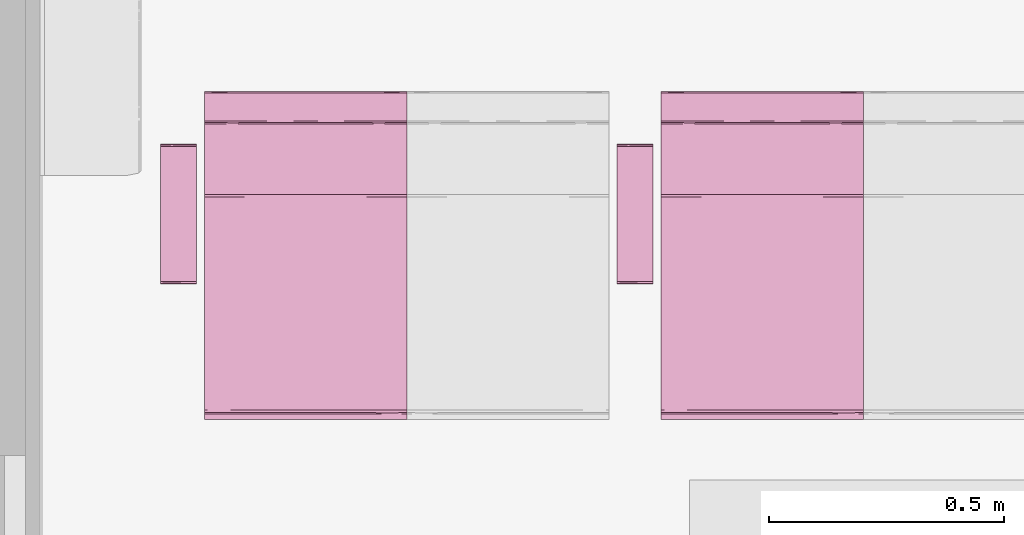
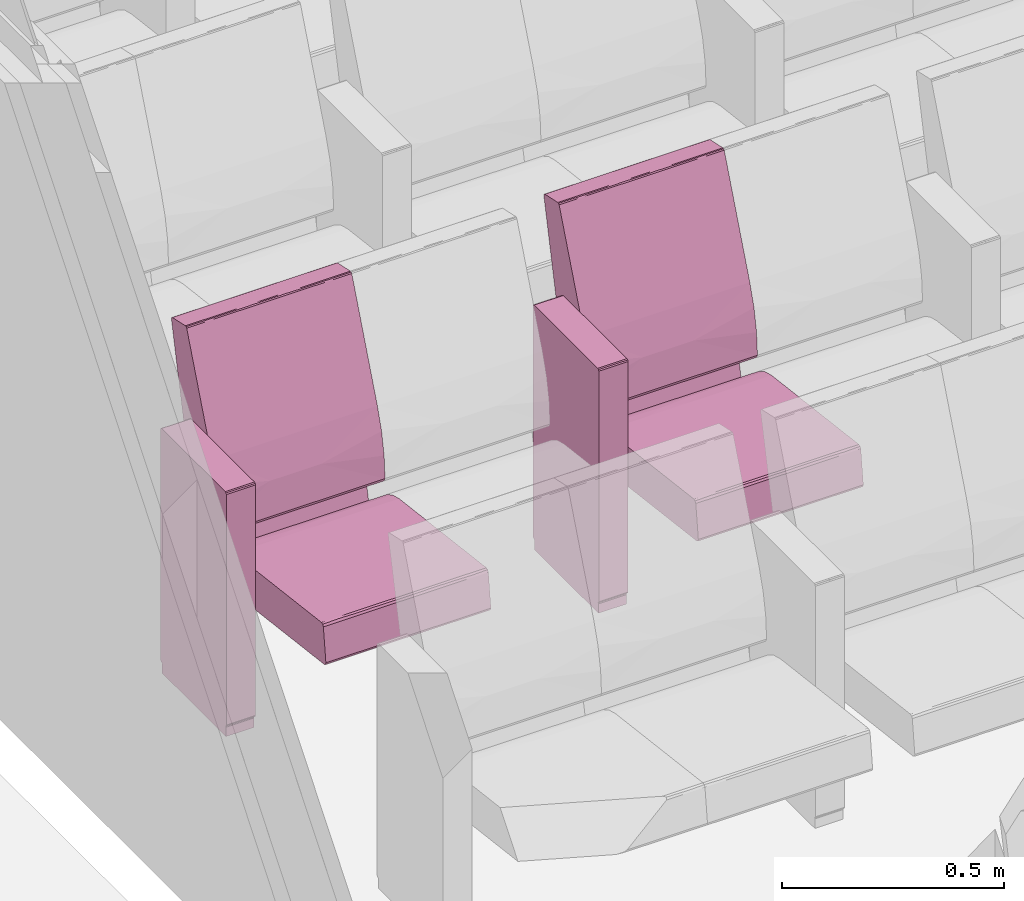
# One storey, part 99 of 155: 2 furnishings.
"""IFC2X3 building model written with IfcOpenShell, lengths in metres."""

import ifcopenshell
import ifcopenshell.guid

model = None  # the IFC model being written
_history = None  # IfcOwnerHistory: only IFC2X3 demands one
_inside = {}  # id of a spatial element -> (the spatial element, [elements in it])
_under = {}  # id of a project, library or spatial element -> (it, [spatial elements below it])
_declared = {}  # id of a project -> (the project, [libraries it declares])
_typed = {}  # id of a type object -> (the type object, [elements of that type])
_made_of = {}  # id of a material, layer set ... -> (it, [elements and type objects made of it])


def new_model(schema):
    """Start an empty IFC model of exactly this schema.

    Asked for "IFC4X3", IfcOpenShell would pick the latest addendum, in which some entities
    have other attributes; the version numbers below select the first issue.
    IFC2X3 requires an IfcOwnerHistory on every rooted entity: one is made here for all.
    """
    global model, _history
    if schema == "IFC4X3":
        model = ifcopenshell.file(schema_version=(4, 3, 0, 0))
    else:
        model = ifcopenshell.file(schema=schema)
    _inside.clear()
    _under.clear()
    _declared.clear()
    _typed.clear()
    _made_of.clear()
    _history = None
    if model.schema == "IFC2X3":
        org = make("IfcOrganization", Name="unknown")
        user = make(
            "IfcPersonAndOrganization",
            ThePerson=make("IfcPerson", FamilyName="unknown"),
            TheOrganization=org,
        )
        app = make(
            "IfcApplication",
            ApplicationDeveloper=org,
            Version="unknown",
            ApplicationFullName="unknown",
            ApplicationIdentifier="unknown",
        )
        _history = make(
            "IfcOwnerHistory",
            OwningUser=user,
            OwningApplication=app,
            ChangeAction="ADDED",
            CreationDate=0,
        )
    return model


def make(cls, **values):
    """One entity of the class cls with the attributes given. An attribute that is None is left unset."""
    return model.create_entity(
        cls, **{name: value for name, value in values.items() if value is not None}
    )


def entity(cls, *values):
    """Any entity or typed value of the class cls, its attributes in the order of the schema. None: left unset."""
    e = model.create_entity(cls)
    for i, value in enumerate(values):
        if value is not None:
            e[i] = value
    return e


def rooted(cls, **values):
    """An entity with a GlobalId (a new one), such as an element, a storey or a relation."""
    return make(cls, GlobalId=ifcopenshell.guid.new(), OwnerHistory=_history, **values)


def si_unit(unit_type, name, prefix=None):
    """IfcSIUnit, for example si_unit("LENGTHUNIT", "METRE", prefix="MILLI")."""
    return make("IfcSIUnit", UnitType=unit_type, Prefix=prefix, Name=name)


def converted_unit(unit_type, name, factor, base, dimensions=None, offset=None):
    """IfcConversionBasedUnit, such as the inch: factor (a typed value) times the base unit."""
    return make(
        "IfcConversionBasedUnit"
        if offset is None
        else "IfcConversionBasedUnitWithOffset",
        ConversionOffset=offset,
        Dimensions=None
        if dimensions is None
        else entity("IfcDimensionalExponents", *dimensions),
        UnitType=unit_type,
        Name=name,
        ConversionFactor=make(
            "IfcMeasureWithUnit", ValueComponent=factor, UnitComponent=base
        ),
    )


def derived_unit(unit_type, elements):
    """IfcDerivedUnit: a product of units, each with its exponent."""
    return make(
        "IfcDerivedUnit",
        Elements=[
            make("IfcDerivedUnitElement", Unit=unit, Exponent=power)
            for unit, power in elements
        ],
        UnitType=unit_type,
    )


def assignment(units):
    """IfcUnitAssignment: the units of a project."""
    return None if units is None else make("IfcUnitAssignment", Units=units)


def point(xyz):
    """IfcCartesianPoint."""
    return None if xyz is None else make("IfcCartesianPoint", Coordinates=xyz)


def direction(xyz):
    """IfcDirection."""
    return None if xyz is None else make("IfcDirection", DirectionRatios=xyz)


def frame(location, z_axis=None, x_axis=None):
    """IfcAxis2Placement3D, a coordinate frame: its origin and axes. An axis left out is left unset."""
    return make(
        "IfcAxis2Placement3D",
        Location=point(location),
        Axis=direction(z_axis),
        RefDirection=direction(x_axis),
    )


def origin():
    """The frame at (0, 0, 0) with its axes left unset."""
    return frame((0.0, 0.0, 0.0))


def place(relative_to, where):
    """IfcLocalPlacement: puts the frame where relative to a parent placement (None: the world)."""
    return make(
        "IfcLocalPlacement", PlacementRelTo=relative_to, RelativePlacement=where
    )


def context(
    kind, dimensions, precision=None, world=None, true_north=None, identifier=None
):
    """IfcGeometricRepresentationContext, for example the 3D "Model" context."""
    return make(
        "IfcGeometricRepresentationContext",
        ContextIdentifier=identifier,
        ContextType=kind,
        CoordinateSpaceDimension=dimensions,
        Precision=precision,
        WorldCoordinateSystem=world,
        TrueNorth=true_north,
    )


def subcontext(parent, identifier, kind, view, scale=None):
    """IfcGeometricRepresentationSubContext, for example "Body" below "Model"."""
    return make(
        "IfcGeometricRepresentationSubContext",
        ContextIdentifier=identifier,
        ContextType=kind,
        ParentContext=parent,
        TargetScale=scale,
        TargetView=view,
    )


def project(units=None, contexts=None):
    """IfcProject with its units and contexts."""
    return rooted(
        "IfcProject",
        Name="project",
        RepresentationContexts=contexts,
        UnitsInContext=assignment(units),
    )


def spatial(cls, under=None, at=None, **own):
    """A site, building, storey or space (cls), placed at a placement, below another one or the project."""
    s = rooted(cls, ObjectPlacement=at, **own)
    if under is not None:
        _under.setdefault(under.id(), (under, []))[1].append(s)
    return s


def faces_of(points, faces, orient=None, outer=None):
    """IfcFace entities. A face is a list of loops; a loop is a list of indices into points, from 0.

    orient and outer hold one flag for each loop. By default every Orientation is true, the
    first loop of a face is its IfcFaceOuterBound and the others are IfcFaceBound.
    """
    made = []
    for i, loops in enumerate(faces):
        bounds = []
        for j, loop in enumerate(loops):
            is_outer = j == 0 if outer is None else outer[i][j]
            bounds.append(
                make(
                    "IfcFaceOuterBound" if is_outer else "IfcFaceBound",
                    Bound=make("IfcPolyLoop", Polygon=[points[k] for k in loop]),
                    Orientation=True if orient is None else orient[i][j],
                )
            )
        made.append(make("IfcFace", Bounds=bounds))
    return made


def faceted_brep(points, faces, orient=None, outer=None, voids=None):
    """IfcFacetedBrep: a solid bounded by flat faces; with voids (closed shells), ...WithVoids."""
    shared = [point(p) for p in points]
    hull = make("IfcClosedShell", CfsFaces=faces_of(shared, faces, orient, outer))
    if voids is None:
        return make("IfcFacetedBrep", Outer=hull)
    return make(
        "IfcFacetedBrepWithVoids",
        Outer=hull,
        Voids=[
            make(cls, CfsFaces=faces_of(shared, fs, o, b)) for cls, fs, o, b in voids
        ],
    )


def shape(context_of_items, identifier, shape_type, items):
    """IfcShapeRepresentation: the items that make up one representation, for example the "Body"."""
    return make(
        "IfcShapeRepresentation",
        ContextOfItems=context_of_items,
        RepresentationIdentifier=identifier,
        RepresentationType=shape_type,
        Items=items,
    )


def source(mapping_origin, context_of_items, identifier, shape_type, items):
    """IfcRepresentationMap: a shape defined once, which mapped items show again and again."""
    return make(
        "IfcRepresentationMap",
        MappingOrigin=mapping_origin,
        MappedRepresentation=shape(context_of_items, identifier, shape_type, items),
    )


def transform(
    local_origin,
    x_axis=None,
    y_axis=None,
    z_axis=None,
    scale=None,
    scale2=None,
    scale3=None,
    uniform=True,
):
    """IfcCartesianTransformationOperator3D, or its non-uniform kind. x_axis, y_axis, z_axis: its Axis1, 2, 3."""
    if uniform:
        return make(
            "IfcCartesianTransformationOperator3D",
            Axis1=direction(x_axis),
            Axis2=direction(y_axis),
            LocalOrigin=point(local_origin),
            Scale=scale,
            Axis3=direction(z_axis),
        )
    return make(
        "IfcCartesianTransformationOperator3DnonUniform",
        Axis1=direction(x_axis),
        Axis2=direction(y_axis),
        LocalOrigin=point(local_origin),
        Scale=scale,
        Axis3=direction(z_axis),
        Scale2=scale2,
        Scale3=scale3,
    )


def mapped(mapping_source, mapping_target):
    """IfcMappedItem: shows the shape of a source again, moved by a transform."""
    return make(
        "IfcMappedItem", MappingSource=mapping_source, MappingTarget=mapping_target
    )


def material(Name=None, Category=None):
    """IfcMaterial."""
    return make("IfcMaterial", Name=Name, Category=Category)


def material_list(materials):
    """IfcMaterialList."""
    return make("IfcMaterialList", Materials=materials)


def made_of(thing, what):
    """Note that an element or type object is made of a material, layer set ...; save() writes the relation."""
    if what is not None:
        _made_of.setdefault(what.id(), (what, []))[1].append(thing)
    return thing


def type_object(cls, material=None, **own):
    """A type object (cls), such as IfcWallType, which elements share."""
    return made_of(rooted(cls, **own), material)


def type_shapes(of_type, sources):
    """Give a type object the sources (RepresentationMaps) that its elements show as mapped items."""
    of_type.RepresentationMaps = sources


def element(
    cls,
    number,
    at=None,
    inside=None,
    cuts=None,
    type_object=None,
    material=None,
    context=None,
    identifier="Body",
    shape_type=None,
    held_by="IfcProductDefinitionShape",
    body=None,
    shapes=None,
    **own,
):
    """One element of the class cls, such as IfcWall. Its Tag is "e" and its number.

    at: its placement. inside: the storey or other place that contains it. cuts: it is an
    opening in that element (IfcRelVoidsElement). A single representation is given by context,
    identifier, shape_type and body (its items); several are given by shapes. held_by: the class
    of the entity that holds the representations. save() writes the other relations.
    """
    e = rooted(cls, Tag="e%d" % number, ObjectPlacement=at, **own)
    if body is not None:
        shapes = [shape(context, identifier, shape_type, body)]
    if shapes is not None:
        e.Representation = make(held_by, Representations=shapes)
    if inside is not None:
        _inside.setdefault(inside.id(), (inside, []))[1].append(e)
    if cuts is not None:
        rooted(
            "IfcRelVoidsElement", RelatingBuildingElement=cuts, RelatedOpeningElement=e
        )
    if type_object is not None:
        _typed.setdefault(type_object.id(), (type_object, []))[1].append(e)
    return made_of(e, material)


def aggregate(whole, parts):
    """IfcRelAggregates: a whole, such as a stair, and the parts it consists of."""
    return rooted("IfcRelAggregates", RelatingObject=whole, RelatedObjects=parts)


def save(model, path):
    """Write the relations noted so far, then the file.

    IfcRelAggregates (storeys below a building ...), IfcRelContainedInSpatialStructure (elements
    in a storey), IfcRelDefinesByType, IfcRelAssociatesMaterial and IfcRelDeclares: one each for
    every whole, place, type object, material and project.
    """
    for whole, parts in _under.values():
        aggregate(whole, parts)
    for where, things in _inside.values():
        rooted(
            "IfcRelContainedInSpatialStructure",
            RelatedElements=things,
            RelatingStructure=where,
        )
    for kind, things in _typed.values():
        rooted("IfcRelDefinesByType", RelatedObjects=things, RelatingType=kind)
    for what, things in _made_of.values():
        rooted("IfcRelAssociatesMaterial", RelatedObjects=things, RelatingMaterial=what)
    for by, libraries in _declared.values():
        rooted("IfcRelDeclares", RelatingContext=by, RelatedDefinitions=libraries)
    model.write(path)


model = new_model("IFC2X3")

# Units and contexts
model_context = context("Model", 3, precision=1e-05, world=origin(), true_north=direction((6.12303176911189e-17, 1.0)))
body_context = subcontext(model_context, "Body", "Model", "MODEL_VIEW")
ifc_project = project(units=[si_unit("LENGTHUNIT", "METRE"), si_unit("AREAUNIT", "SQUARE_METRE"), si_unit("VOLUMEUNIT", "CUBIC_METRE"), converted_unit("PLANEANGLEUNIT", "DEGREE", entity("IfcRatioMeasure", 0.0174532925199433), si_unit("PLANEANGLEUNIT", "RADIAN"), dimensions=[0, 0, 0, 0, 0, 0, 0]), si_unit("MASSUNIT", "GRAM", prefix="KILO"), derived_unit("MASSDENSITYUNIT", [(si_unit("MASSUNIT", "GRAM", prefix="KILO"), 1), (si_unit("LENGTHUNIT", "METRE"), -3)]), si_unit("TIMEUNIT", "SECOND"), si_unit("FREQUENCYUNIT", "HERTZ"), si_unit("THERMODYNAMICTEMPERATUREUNIT", "DEGREE_CELSIUS"), derived_unit("THERMALTRANSMITTANCEUNIT", [(si_unit("MASSUNIT", "GRAM", prefix="KILO"), 1), (si_unit("THERMODYNAMICTEMPERATUREUNIT", "KELVIN"), -1), (si_unit("TIMEUNIT", "SECOND"), -3)]), derived_unit("VOLUMETRICFLOWRATEUNIT", [(si_unit("LENGTHUNIT", "METRE"), 3), (si_unit("TIMEUNIT", "SECOND"), -1)]), si_unit("ELECTRICCURRENTUNIT", "AMPERE"), si_unit("ELECTRICVOLTAGEUNIT", "VOLT"), si_unit("POWERUNIT", "WATT"), si_unit("FORCEUNIT", "NEWTON", prefix="KILO"), si_unit("ILLUMINANCEUNIT", "LUX"), si_unit("LUMINOUSFLUXUNIT", "LUMEN"), si_unit("LUMINOUSINTENSITYUNIT", "CANDELA"), derived_unit("USERDEFINED", [(si_unit("MASSUNIT", "GRAM", prefix="KILO"), -1), (si_unit("LENGTHUNIT", "METRE"), -2), (si_unit("TIMEUNIT", "SECOND"), 3), (si_unit("LUMINOUSFLUXUNIT", "LUMEN"), 1)]), derived_unit("LINEARVELOCITYUNIT", [(si_unit("LENGTHUNIT", "METRE"), 1), (si_unit("TIMEUNIT", "SECOND"), -1)]), si_unit("PRESSUREUNIT", "PASCAL"), derived_unit("USERDEFINED", [(si_unit("LENGTHUNIT", "METRE"), -2), (si_unit("MASSUNIT", "GRAM", prefix="KILO"), 1), (si_unit("TIMEUNIT", "SECOND"), -2)])], contexts=[model_context])

# Site, building, storey, space
site_placement = place(None, frame((26.9889013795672, -17.5624287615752, 0.0)))
site = spatial("IfcSite", under=ifc_project, at=site_placement, Name="Default", CompositionType="ELEMENT")
building_placement = place(site_placement, origin())
building = spatial("IfcBuilding", under=site, at=building_placement, Name="C. C. L. Monsenhor Antônio Sampaio", CompositionType="ELEMENT")
storey_placement = place(building_placement, frame((0.0, 0.0, 1.19999999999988)))
storey = spatial("IfcBuildingStorey", under=building, at=storey_placement, Name="Nível 1.2", CompositionType="ELEMENT", Elevation=1.19999999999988)
space_placement = place(storey_placement, origin())
space = spatial("IfcSpace", under=storey, at=space_placement, Name="94", CompositionType="ELEMENT", InteriorOrExteriorSpace="INTERNAL")

# Furnishings
ifc_material_1 = material(Name="V9 - V9 - Ecopelle_672_658")
ifc_material_2 = material(Name="V9 - V9 - RAL_9006_Grigio")
ifc_material_list_1 = material_list([ifc_material_1, ifc_material_2])
ifc_material_list_2 = material_list([ifc_material_1, ifc_material_2])
furniture_type = type_object("IfcFurnitureType", Name="Cadeira auditório", material=ifc_material_list_2)
shared_shape = source(origin(), body_context, "Body", "Brep", [
    faceted_brep([(0.405536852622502, 0.156348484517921, 0.339809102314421), (0.410560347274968, 0.131924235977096, 0.34246450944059), (0.405536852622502, 0.1075, 0.339809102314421), (0.405536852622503, 0.0537499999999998, 0.339809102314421), (0.410597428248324, 0.084060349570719, 0.342506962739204), (0.41079981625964, 0.0179166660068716, 0.342749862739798), (0.405536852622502, 0.215, 0.339809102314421), (0.410248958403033, 0.173608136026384, 0.342130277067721), (0.412515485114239, 0.185674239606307, 0.348529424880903), (0.412515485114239, 0.143333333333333, 0.348529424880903), (0.410560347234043, -0.131924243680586, 0.342464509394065), (0.405536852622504, -0.156348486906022, 0.33980910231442), (0.405536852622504, -0.1075, 0.33980910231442), (0.405536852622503, 0.0, 0.33980910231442), (0.41251548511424, 0.0, 0.348529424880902), (0.411170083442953, -0.0341365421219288, 0.343251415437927), (0.41059742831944, -0.0840603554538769, 0.342506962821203), (0.41251548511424, -0.143333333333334, 0.348529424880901), (0.412515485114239, 0.0358333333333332, 0.348529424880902), (0.412515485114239, 0.0716666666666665, 0.348529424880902), (0.405536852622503, -0.0537500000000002, 0.33980910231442), (0.412515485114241, -0.185674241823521, 0.348529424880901), (0.410799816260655, -0.215, 0.342749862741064), (0.410248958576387, -0.173608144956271, 0.342130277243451), (0.410799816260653, 0.215, 0.342749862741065), (0.412515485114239, 0.215, 0.348529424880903), (0.412515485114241, -0.215, 0.348529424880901), (0.41251548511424, -0.0716666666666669, 0.348529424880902), (0.405536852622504, -0.215, 0.33980910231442), (-0.0557900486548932, -0.215, 0.28268145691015), (-0.055790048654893, -0.168631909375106, 0.282681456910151), (-0.0557900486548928, -0.138065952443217, 0.282681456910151), (-0.0557900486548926, -0.107499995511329, 0.282681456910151), (-0.0557900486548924, -0.0806249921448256, 0.282681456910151), (-0.0557900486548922, -0.0537499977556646, 0.282681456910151), (-0.0557900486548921, -0.0268750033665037, 0.282681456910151), (-0.0557900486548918, 0.0, 0.28268145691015), (-0.0557900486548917, 0.0268749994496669, 0.282681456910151), (-0.0557900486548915, 0.0537499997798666, 0.282681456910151), (-0.0557900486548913, 0.0806250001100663, 0.282681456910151), (-0.0557900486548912, 0.107499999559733, 0.282681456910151), (-0.055790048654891, 0.134374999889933, 0.282681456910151), (-0.0557900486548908, 0.161250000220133, 0.282681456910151), (-0.0557900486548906, 0.1881249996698, 0.282681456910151), (-0.0557900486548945, 0.215, 0.28268145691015), (-0.0594787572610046, -0.0152829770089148, 0.283700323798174), (-0.0613666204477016, 0.0, 0.287029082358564), (-0.0594787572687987, 0.0179017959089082, 0.283700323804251), (-0.0613666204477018, 0.191815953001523, 0.287029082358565), (-0.0613666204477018, 0.215, 0.287029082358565), (-0.0594787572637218, 0.215, 0.283700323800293), (-0.0593340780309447, 0.0671874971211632, 0.283591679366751), (-0.0613666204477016, 0.030565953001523, 0.287029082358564), (-0.0594787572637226, -0.215, 0.283700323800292), (-0.0593337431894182, -0.184174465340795, 0.283591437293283), (-0.0613666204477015, -0.122263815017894, 0.287029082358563), (-0.0613666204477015, -0.0916978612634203, 0.287029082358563), (-0.0613666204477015, -0.0611319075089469, 0.287029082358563), (-0.0593023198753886, -0.0940625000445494, 0.283568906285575), (-0.059382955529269, 0.118123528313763, 0.28362747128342), (-0.0613666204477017, 0.122263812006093, 0.287029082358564), (-0.0597338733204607, 0.147039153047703, 0.283913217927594), (-0.0613666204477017, 0.168631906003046, 0.287029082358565), (-0.0592501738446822, 0.180223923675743, 0.283532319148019), (-0.0588783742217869, 0.0926899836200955, 0.283298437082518), (-0.0613666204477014, -0.215, 0.287029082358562), (-0.0613666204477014, -0.168631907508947, 0.287029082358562), (-0.0592576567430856, -0.123736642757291, 0.283537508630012), (-0.0594787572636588, -0.153348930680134, 0.283700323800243), (-0.0613666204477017, 0.0916978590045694, 0.287029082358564), (-0.0613666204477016, -0.0305659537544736, 0.287029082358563), (-0.059645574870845, -0.045848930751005, 0.283836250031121), (-0.0613666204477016, 0.0611319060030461, 0.287029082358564), (-0.069340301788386, -0.215, 0.351419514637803), (-0.0693403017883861, -0.143333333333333, 0.351419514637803), (-0.0693403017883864, -0.0716666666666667, 0.351419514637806), (-0.0693403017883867, 0.0, 0.351419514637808), (-0.069340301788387, 0.0716666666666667, 0.351419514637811), (-0.0693403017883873, 0.143333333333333, 0.351419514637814), (-0.0693403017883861, 0.215, 0.351419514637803), (-0.0597085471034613, 0.0, 0.37476954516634), (-0.0645543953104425, 0.112272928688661, 0.369803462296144), (-0.0653387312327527, 0.0126787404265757, 0.368680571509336), (-0.0681665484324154, -0.0888707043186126, 0.36292533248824), (-0.0655136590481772, -0.10440004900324, 0.368411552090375), (-0.0694879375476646, 0.0590582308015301, 0.356377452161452), (-0.0695056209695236, -0.125492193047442, 0.356093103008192), (-0.0597085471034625, -0.110316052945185, 0.374769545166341), (-0.0690003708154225, 0.132942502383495, 0.359900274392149), (-0.0672851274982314, 0.108066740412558, 0.365148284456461), (-0.0676206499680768, 0.215, 0.364371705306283), (-0.0686241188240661, 0.215, 0.356813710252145), (-0.0686241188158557, -0.214999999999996, 0.356813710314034), (-0.0686999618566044, 0.0358333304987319, 0.36116674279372), (-0.0694502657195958, -0.0358333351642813, 0.356863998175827), (-0.0676206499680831, -0.214999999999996, 0.364371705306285), (-0.0636645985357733, -0.214999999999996, 0.369570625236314), (-0.0597085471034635, -0.214999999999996, 0.374769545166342), (-0.0597085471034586, 0.215, 0.374769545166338), (-0.0636645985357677, 0.215, 0.36957062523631), (-0.0597085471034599, 0.110316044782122, 0.374769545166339), (-0.0324117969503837, 0.215, 0.390639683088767), (-0.0324117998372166, 0.0436847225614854, 0.39063968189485), (-0.0018793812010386, 0.215, 0.398686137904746), (-0.041847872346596, -0.0856576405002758, 0.386239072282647), (-0.0324117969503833, -0.215, 0.390639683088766), (-0.00187938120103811, -0.215, 0.398686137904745), (-0.00187938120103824, -0.102488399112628, 0.398686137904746), (-0.0219042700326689, -0.0570631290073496, 0.394412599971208), (-0.00187938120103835, 0.0, 0.398686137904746), (0.392202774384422, 0.215, 0.447486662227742), (0.392202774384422, -0.215, 0.447486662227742), (0.392202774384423, -0.156349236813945, 0.447486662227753), (0.392202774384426, -0.107499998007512, 0.447486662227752), (0.392202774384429, -0.0537500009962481, 0.44748666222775), (0.392202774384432, 0.0, 0.447486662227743), (0.392202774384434, 0.0537499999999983, 0.447486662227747), (0.392202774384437, 0.107499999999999, 0.447486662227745), (0.392202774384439, 0.156349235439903, 0.447486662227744), (0.398104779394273, -0.131924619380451, 0.445856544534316), (0.401125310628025, -0.0976984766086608, 0.440530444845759), (0.397860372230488, -0.0827732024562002, 0.446039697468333), (0.401125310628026, -0.215000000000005, 0.440530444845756), (0.401125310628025, -0.156349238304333, 0.440530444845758), (0.397373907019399, -0.173462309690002, 0.446363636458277), (0.398104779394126, -0.215000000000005, 0.445856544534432), (0.397860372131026, 0.0827731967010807, 0.446039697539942), (0.398104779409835, 0.131924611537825, 0.445856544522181), (0.398104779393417, -0.0237489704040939, 0.445856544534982), (0.398104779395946, 0.0268749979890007, 0.445856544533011), (0.401125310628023, 0.0488492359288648, 0.440530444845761), (0.401125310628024, -0.0488492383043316, 0.440530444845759), (0.398774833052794, 0.173462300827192, 0.445271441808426), (0.401125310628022, 0.097698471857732, 0.440530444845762), (0.401125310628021, 0.215, 0.440530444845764), (0.39810477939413, 0.215, 0.445856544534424), (0.401125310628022, 0.156349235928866, 0.440530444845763), (0.401125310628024, 0.0, 0.44053044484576)], [[[0, 1, 2]], [[3, 4, 5]], [[6, 7, 0]], [[7, 8, 9]], [[10, 11, 12]], [[3, 5, 13]], [[14, 15, 5]], [[16, 17, 10]], [[9, 1, 7]], [[18, 5, 4]], [[4, 9, 19, 18]], [[9, 4, 1]], [[2, 1, 4]], [[13, 15, 20]], [[21, 22, 23]], [[5, 18, 14]], [[24, 25, 8]], [[22, 21, 26]], [[24, 7, 6]], [[23, 11, 10]], [[20, 15, 16]], [[3, 2, 4]], [[14, 27, 15]], [[5, 15, 13]], [[27, 17, 16]], [[10, 12, 16]], [[21, 23, 17]], [[20, 16, 12]], [[15, 27, 16]], [[7, 1, 0]], [[28, 11, 23]], [[8, 7, 24]], [[23, 10, 17]], [[28, 23, 22]], [[28, 29, 30, 31, 32, 33, 34, 35, 36, 37, 38, 39, 40, 41, 42, 43, 44, 6, 0, 2, 3, 13, 20, 12, 11]], [[45, 46, 47]], [[48, 49, 50]], [[51, 47, 52]], [[29, 53, 54]], [[55, 56, 57, 58]], [[59, 60, 61]], [[61, 62, 63]], [[51, 64, 39]], [[65, 66, 54]], [[31, 67, 32]], [[45, 47, 38, 37, 36, 35]], [[68, 31, 30]], [[43, 50, 44]], [[63, 42, 61]], [[48, 50, 63]], [[64, 69, 59]], [[68, 54, 66]], [[63, 62, 48]], [[50, 43, 63]], [[67, 55, 58]], [[61, 42, 41]], [[45, 70, 46]], [[55, 68, 66]], [[71, 33, 58]], [[71, 57, 70]], [[41, 40, 59]], [[60, 62, 61]], [[71, 35, 34, 33]], [[35, 71, 45]], [[47, 46, 52]], [[45, 71, 70]], [[58, 57, 71]], [[32, 58, 33]], [[31, 68, 67]], [[54, 68, 30]], [[29, 54, 30]], [[54, 53, 65]], [[55, 67, 68]], [[32, 67, 58]], [[51, 52, 72, 69]], [[43, 42, 63]], [[41, 59, 61]], [[47, 51, 38]], [[40, 39, 64]], [[38, 51, 39]], [[69, 60, 59]], [[69, 64, 51]], [[40, 64, 59]], [[65, 73, 74, 75, 76, 77, 78, 79, 49, 48, 62, 60, 69, 72, 52, 46, 70, 57, 56, 55, 66]], [[80, 81, 82]], [[82, 83, 84]], [[78, 77, 76, 85]], [[86, 75, 74]], [[84, 80, 82]], [[80, 84, 87]], [[88, 89, 90]], [[91, 79, 78]], [[74, 73, 92]], [[85, 88, 91]], [[81, 89, 82]], [[93, 94, 83]], [[94, 86, 83]], [[85, 76, 94]], [[92, 86, 74]], [[85, 94, 93]], [[83, 92, 95]], [[75, 94, 76]], [[93, 83, 82]], [[95, 96, 84]], [[88, 85, 93]], [[96, 97, 87]], [[98, 99, 100]], [[78, 85, 91]], [[89, 88, 93]], [[90, 91, 88]], [[93, 82, 89]], [[81, 99, 89]], [[99, 90, 89]], [[100, 81, 80]], [[100, 99, 81]], [[83, 86, 92]], [[75, 86, 94]], [[95, 84, 83]], [[87, 84, 96]], [[101, 102, 103]], [[104, 80, 87, 97]], [[105, 106, 107]], [[107, 108, 105]], [[103, 102, 109]], [[104, 102, 80]], [[104, 108, 102]], [[98, 102, 101]], [[105, 104, 97]], [[105, 108, 104]], [[102, 98, 100, 80]], [[109, 108, 107]], [[109, 102, 108]], [[110, 103, 109, 107, 106, 111, 112, 113, 114, 115, 116, 117, 118]], [[119, 120, 121]], [[122, 123, 124]], [[111, 125, 124]], [[117, 116, 126]], [[124, 119, 112]], [[113, 112, 119]], [[127, 118, 117]], [[115, 114, 128, 129, 116]], [[129, 130, 126]], [[121, 131, 128]], [[127, 132, 118]], [[110, 118, 132]], [[127, 126, 133]], [[119, 124, 123]], [[134, 135, 132]], [[136, 132, 127]], [[120, 119, 123]], [[133, 136, 127]], [[137, 130, 129, 128, 131]], [[126, 127, 117]], [[130, 133, 126]], [[113, 119, 121]], [[129, 126, 116]], [[128, 114, 121]], [[114, 113, 121]], [[131, 121, 120]], [[111, 124, 112]], [[124, 125, 122]], [[134, 132, 136]], [[132, 135, 110]], [[19, 9, 8, 25, 134, 136, 133, 130, 137, 131, 120, 123, 122, 26, 21, 17, 27, 14, 18]], [[65, 53, 29, 28, 22, 26, 122, 125, 111, 106, 105, 97, 96, 95, 92, 73]], [[98, 101, 103, 110, 135, 134, 25, 24, 6, 44, 50, 49, 79, 91, 90, 99]]]),
    faceted_brep([(0.123144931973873, -0.283972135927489, 0.673627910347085), (0.12334838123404, -0.259944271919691, 0.6734355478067), (0.119812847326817, -0.27, 0.674900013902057), (0.124812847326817, -0.27, 0.669900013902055), (0.12334838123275, -0.232, 0.673435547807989), (0.119812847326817, -0.232, 0.674900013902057), (0.124812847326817, -0.308, 0.669900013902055), (0.119812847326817, -0.308, 0.674900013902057), (0.124812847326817, -0.249888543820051, 0.669900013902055), (0.124812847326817, -0.232, 0.669900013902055), (0.12334838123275, -0.308, 0.673435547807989), (0.124812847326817, -0.27, 0.035), (0.124812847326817, -0.232, 0.035), (0.124812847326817, -0.308, 0.0350000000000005), (0.123540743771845, -0.283972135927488, 0.0316679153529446), (0.12334838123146, -0.25994427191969, 0.0314644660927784), (0.119812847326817, -0.27, 0.0300000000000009), (0.12334838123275, -0.232, 0.0314644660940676), (0.119812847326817, -0.308, 0.0300000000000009), (0.119812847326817, -0.249888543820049, 0.030000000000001), (0.119812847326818, -0.232, 0.030000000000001), (0.123348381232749, -0.308, 0.0314644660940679), (-0.167179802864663, -0.308, 0.0300000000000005), (-0.167179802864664, -0.27, 0.0300000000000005), (-0.167179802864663, -0.232, 0.0300000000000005), (-0.17051188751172, -0.283972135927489, 0.0312721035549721), (-0.170715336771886, -0.25994427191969, 0.0314644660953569), (-0.172179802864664, -0.27, 0.0350000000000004), (-0.170715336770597, -0.232, 0.0314644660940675), (-0.172179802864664, -0.308, 0.0350000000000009), (-0.172179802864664, -0.24988854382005, 0.0350000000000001), (-0.172179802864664, -0.232, 0.0349999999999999), (-0.170715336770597, -0.308, 0.0314644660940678), (-0.172179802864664, -0.308, 0.669900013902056), (-0.172179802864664, -0.27, 0.669900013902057), (-0.172179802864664, -0.232, 0.669900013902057), (-0.170907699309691, -0.283972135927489, 0.673232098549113), (-0.170715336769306, -0.259944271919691, 0.673435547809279), (-0.167179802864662, -0.27, 0.674900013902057), (-0.170715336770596, -0.232, 0.67343554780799), (-0.167179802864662, -0.308, 0.674900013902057), (-0.167179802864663, -0.249888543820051, 0.674900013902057), (-0.167179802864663, -0.232, 0.674900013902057), (-0.170715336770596, -0.308, 0.67343554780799)], [[[0, 1, 2]], [[1, 0, 3]], [[1, 4, 5, 2]], [[6, 3, 0]], [[7, 0, 2]], [[4, 1, 3, 8, 9]], [[10, 0, 7]], [[0, 10, 6]], [[11, 12, 9, 8, 3, 6, 13]], [[14, 15, 11]], [[15, 14, 16]], [[15, 17, 12, 11]], [[18, 16, 14]], [[13, 14, 11]], [[17, 15, 16, 19, 20]], [[21, 14, 13]], [[14, 21, 18]], [[18, 22, 23, 24, 20, 19, 16]], [[25, 26, 23]], [[26, 25, 27]], [[26, 28, 24, 23]], [[29, 27, 25]], [[22, 25, 23]], [[28, 26, 27, 30, 31]], [[32, 25, 22]], [[25, 32, 29]], [[27, 29, 33, 34, 35, 31, 30]], [[36, 37, 34]], [[37, 36, 38]], [[37, 39, 35, 34]], [[40, 38, 36]], [[33, 36, 34]], [[39, 37, 38, 41, 42]], [[43, 36, 33]], [[36, 43, 40]], [[40, 7, 2, 5, 42, 41, 38]], [[35, 39, 42, 5, 4, 9, 12, 17, 20, 24, 28, 31]], [[29, 32, 22, 18, 21, 13, 6, 10, 7, 40, 43, 33]]]),
    faceted_brep([(-0.0695672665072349, 0.215, 0.476508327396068), (-0.074405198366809, 0.0524423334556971, 0.506888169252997), (-0.0655618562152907, 0.215, 0.415143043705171), (-0.0744051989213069, -0.0780075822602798, 0.506888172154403), (-0.0655618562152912, 0.0, 0.415143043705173), (-0.0655618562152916, -0.215, 0.415143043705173), (-0.0655618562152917, -0.1075, 0.415143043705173), (-0.0655618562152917, 0.1075, 0.415143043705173), (-0.0695672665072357, -0.215, 0.476508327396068), (-0.081111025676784, -0.215, 0.536911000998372), (-0.0811110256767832, 0.215, 0.536911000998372), (-0.100016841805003, 0.215, 0.595428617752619), (-0.100016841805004, 0.0, 0.595428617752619), (-0.100016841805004, -0.215, 0.595428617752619), (-0.0698317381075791, 0.0358333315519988, 0.406528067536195), (-0.0792851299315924, 0.0, 0.404772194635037), (-0.0792851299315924, 0.0716666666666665, 0.404772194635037), (-0.0792851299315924, -0.215, 0.404772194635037), (-0.0792851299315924, -0.143333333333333, 0.404772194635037), (-0.0698317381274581, -0.215, 0.406528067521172), (-0.0792851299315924, 0.143333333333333, 0.404772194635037), (-0.0792851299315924, 0.215, 0.404772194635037), (-0.0698317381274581, 0.215, 0.406528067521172), (-0.0694171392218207, 0.140338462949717, 0.406857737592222), (-0.0708115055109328, -0.0356393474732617, 0.405868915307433), (-0.0703502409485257, -0.107500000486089, 0.406159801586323), (-0.0792851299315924, -0.0716666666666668, 0.404772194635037), (-0.163837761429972, -0.215, 0.420611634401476), (-0.163837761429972, 0.215, 0.420611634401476), (-0.123612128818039, 0.215, 0.235917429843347), (-0.123612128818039, -0.215, 0.235917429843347), (-0.142059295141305, -0.215, 0.231899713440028), (-0.142059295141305, 0.215, 0.231899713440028), (-0.235388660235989, -0.215, 0.652619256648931), (-0.235388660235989, 0.215, 0.652619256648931), (-0.28428001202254, -0.215, 0.873004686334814), (-0.284280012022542, -0.191295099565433, 0.873004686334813), (-0.284280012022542, -0.161249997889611, 0.873004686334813), (-0.284280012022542, -0.134374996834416, 0.873004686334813), (-0.284280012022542, -0.107499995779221, 0.873004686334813), (-0.284280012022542, -0.0806249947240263, 0.873004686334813), (-0.284280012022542, -0.0537499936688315, 0.873004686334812), (-0.284280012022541, -0.0268749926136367, 0.873004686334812), (-0.28428001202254, 0.0, 0.873004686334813), (-0.284280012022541, 0.0268749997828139, 0.873004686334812), (-0.284280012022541, 0.0537500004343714, 0.873004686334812), (-0.284280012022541, 0.0806250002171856, 0.873004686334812), (-0.284280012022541, 0.1075, 0.873004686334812), (-0.284280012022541, 0.134374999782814, 0.873004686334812), (-0.28428001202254, 0.161249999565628, 0.873004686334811), (-0.28428001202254, 0.191295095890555, 0.873004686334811), (-0.28428001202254, 0.215, 0.873004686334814), (-0.283746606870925, 0.0872244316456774, 0.876674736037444), (-0.283504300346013, 0.0569644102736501, 0.877068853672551), (-0.283567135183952, -0.15546176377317, 0.876973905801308), (-0.283641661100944, -0.12093750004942, 0.87685511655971), (-0.283567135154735, 0.155461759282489, 0.876973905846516), (-0.28330409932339, 0.185293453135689, 0.877344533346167), (-0.283641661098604, 0.0179166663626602, 0.876855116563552), (-0.283641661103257, -0.0136463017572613, 0.876855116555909), (-0.280514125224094, -0.0358333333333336, 0.879190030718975), (-0.280514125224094, 0.0, 0.879190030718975), (-0.280514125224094, 0.0358333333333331, 0.879190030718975), (-0.280514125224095, -0.143333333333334, 0.879190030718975), (-0.280514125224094, -0.1075, 0.879190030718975), (-0.280514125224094, -0.071666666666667, 0.879190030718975), (-0.283746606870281, -0.0872244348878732, 0.876674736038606), (-0.280514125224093, 0.0716666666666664, 0.879190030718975), (-0.280514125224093, 0.1075, 0.879190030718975), (-0.283641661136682, 0.120937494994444, 0.876855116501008), (-0.280514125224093, 0.143333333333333, 0.879190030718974), (-0.283641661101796, 0.215, 0.876855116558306), (-0.283641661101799, -0.215, 0.876855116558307), (-0.283304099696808, -0.18529345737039, 0.877344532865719), (-0.280514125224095, -0.167590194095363, 0.879190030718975), (-0.280514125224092, 0.215, 0.879190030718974), (-0.280514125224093, 0.167590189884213, 0.879190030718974), (-0.280514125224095, -0.215, 0.879190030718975), (-0.283504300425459, -0.0569644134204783, 0.8770688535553), (-0.22111253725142, 0.215, 0.892176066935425), (-0.22111253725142, -0.215, 0.892176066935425), (-0.221112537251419, -0.191815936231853, 0.892176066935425), (-0.221112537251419, -0.161250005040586, 0.892176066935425), (-0.221112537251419, -0.134375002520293, 0.892176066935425), (-0.221112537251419, -0.1075, 0.892176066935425), (-0.221112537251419, -0.080624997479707, 0.892176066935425), (-0.221112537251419, -0.0537499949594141, 0.892176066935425), (-0.221112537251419, -0.0268750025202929, 0.892176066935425), (-0.221112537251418, 0.0, 0.892176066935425), (-0.221112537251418, 0.0268750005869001, 0.892176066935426), (-0.221112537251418, 0.05375000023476, 0.892176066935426), (-0.221112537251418, 0.0806249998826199, 0.892176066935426), (-0.221112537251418, 0.10749999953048, 0.892176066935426), (-0.221112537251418, 0.13437499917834, 0.892176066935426), (-0.221112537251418, 0.16124999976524, 0.892176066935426), (-0.221112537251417, 0.19181594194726, 0.892176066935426), (-0.215419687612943, 0.0, 0.889191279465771), (-0.215419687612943, 0.0358333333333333, 0.889191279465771), (-0.217722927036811, 0.0162353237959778, 0.891719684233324), (-0.217722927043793, -0.0134375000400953, 0.891719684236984), (-0.215419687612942, -0.191815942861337, 0.889191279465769), (-0.215419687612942, -0.168631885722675, 0.889191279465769), (-0.217722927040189, -0.182482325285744, 0.891719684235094), (-0.217722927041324, -0.215, 0.891719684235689), (-0.215419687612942, -0.215, 0.889191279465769), (-0.215419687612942, -0.1075, 0.88919127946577), (-0.215419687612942, -0.0716666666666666, 0.88919127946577), (-0.217722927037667, -0.0912646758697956, 0.891719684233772), (-0.217722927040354, -0.120937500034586, 0.89171968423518), (-0.215419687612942, -0.143333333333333, 0.88919127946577), (-0.215419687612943, 0.191815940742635, 0.889191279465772), (-0.215419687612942, 0.215, 0.889191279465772), (-0.217722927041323, 0.215, 0.89171968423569), (-0.217722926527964, 0.190103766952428, 0.891719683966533), (-0.217722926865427, 0.0912646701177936, 0.891719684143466), (-0.217816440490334, 0.0647800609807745, 0.891767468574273), (-0.215419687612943, 0.0716666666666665, 0.889191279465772), (-0.217816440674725, -0.0647800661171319, 0.891767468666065), (-0.2179983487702, -0.0390825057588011, 0.891853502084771), (-0.217558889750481, -0.155982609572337, 0.891629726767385), (-0.217722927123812, 0.120937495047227, 0.891719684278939), (-0.215419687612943, 0.16863188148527, 0.889191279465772), (-0.215419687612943, 0.143333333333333, 0.889191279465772), (-0.217558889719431, 0.15598260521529, 0.891629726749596), (-0.215419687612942, -0.0358333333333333, 0.889191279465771), (-0.215419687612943, 0.1075, 0.889191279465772), (-0.218257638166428, 0.0404491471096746, 0.891961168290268)], [[[0, 1, 2]], [[1, 3, 4]], [[3, 5, 6, 4]], [[1, 4, 7, 2]], [[5, 3, 8]], [[8, 3, 9]], [[0, 10, 1]], [[11, 12, 1]], [[3, 13, 9]], [[3, 12, 13]], [[11, 1, 10]], [[3, 1, 12]], [[14, 15, 16]], [[17, 18, 19]], [[20, 21, 22]], [[2, 23, 22]], [[14, 7, 4]], [[14, 24, 15]], [[6, 25, 24]], [[22, 23, 20]], [[14, 23, 7]], [[19, 6, 5]], [[4, 24, 14]], [[16, 23, 14]], [[16, 20, 23]], [[26, 25, 18]], [[25, 19, 18]], [[15, 24, 26]], [[23, 2, 7]], [[19, 25, 6]], [[26, 24, 25]], [[6, 24, 4]], [[15, 26, 18, 17, 27, 28, 21, 20, 16]], [[29, 28, 27, 30]], [[30, 31, 32, 29]], [[32, 31, 33, 34]], [[34, 33, 35, 36, 37, 38, 39, 40, 41, 42, 43, 44, 45, 46, 47, 48, 49, 50, 51]], [[52, 46, 53]], [[38, 54, 55]], [[56, 57, 49]], [[58, 59, 60, 61, 62]], [[63, 64, 55]], [[64, 65, 66]], [[52, 67, 68]], [[69, 70, 56]], [[49, 57, 50]], [[38, 55, 39]], [[71, 51, 50]], [[36, 35, 72]], [[59, 58, 44, 43, 42]], [[73, 74, 54]], [[55, 66, 39]], [[75, 57, 76]], [[77, 74, 73]], [[69, 52, 68]], [[37, 36, 73]], [[54, 74, 63]], [[56, 76, 57]], [[36, 72, 73]], [[75, 71, 57]], [[70, 76, 56]], [[52, 69, 47]], [[48, 47, 69]], [[42, 78, 59]], [[66, 55, 64]], [[50, 57, 71]], [[73, 54, 37]], [[77, 73, 72]], [[48, 69, 56]], [[56, 49, 48]], [[69, 68, 70]], [[53, 46, 45, 44]], [[58, 62, 53]], [[53, 44, 58]], [[38, 37, 54]], [[63, 55, 54]], [[78, 66, 65]], [[78, 40, 66]], [[67, 52, 53]], [[78, 42, 41, 40]], [[65, 60, 78]], [[59, 78, 60]], [[52, 47, 46]], [[40, 39, 66]], [[62, 67, 53]], [[79, 75, 76, 70, 68, 67, 62, 61, 60, 65, 64, 63, 74, 77, 80, 81, 82, 83, 84, 85, 86, 87, 88, 89, 90, 91, 92, 93, 94, 95]], [[96, 97, 98, 99]], [[100, 101, 102, 103, 104]], [[105, 106, 107, 108, 109]], [[110, 111, 112]], [[113, 112, 95]], [[114, 115, 116]], [[117, 118, 86]], [[82, 119, 83]], [[102, 82, 81, 80, 103]], [[112, 79, 95]], [[108, 107, 85, 84, 83]], [[88, 87, 99, 98, 89]], [[119, 101, 109]], [[93, 92, 120]], [[117, 85, 107]], [[113, 121, 110]], [[122, 121, 123]], [[113, 94, 123]], [[124, 99, 118]], [[122, 123, 120]], [[108, 119, 109]], [[113, 110, 112]], [[102, 101, 119]], [[119, 108, 83]], [[114, 125, 120]], [[123, 94, 93]], [[93, 120, 123]], [[114, 120, 92]], [[122, 120, 125]], [[117, 107, 106]], [[114, 92, 91]], [[116, 125, 114]], [[115, 91, 90]], [[85, 117, 86]], [[126, 89, 98]], [[117, 106, 124]], [[118, 99, 87]], [[124, 96, 99]], [[97, 116, 115]], [[97, 115, 126]], [[86, 118, 87]], [[124, 118, 117]], [[91, 115, 114]], [[115, 90, 126]], [[89, 126, 90]], [[97, 126, 98]], [[82, 102, 119]], [[94, 113, 95]], [[121, 113, 123]], [[11, 111, 110, 121, 122, 125, 116, 97, 96, 124, 106, 105, 109, 101, 100, 104, 13, 12]], [[27, 17, 19, 5, 8, 9, 13, 104, 103, 80, 77, 72, 35, 33, 31, 30]], [[51, 71, 75, 79, 112, 111, 11, 10, 0, 2, 22, 21, 28, 29, 32, 34]]]),
    faceted_brep([(0.120312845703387, -0.2335, 0.0), (0.120312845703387, -0.2335, 0.0260000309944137), (0.120312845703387, -0.249500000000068, 0.0260000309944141), (0.120312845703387, -0.27, 0.0260000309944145), (0.120312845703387, -0.3065, 0.0260000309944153), (0.120312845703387, -0.3065, 0.0), (-0.167687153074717, -0.3065, 0.0), (-0.167687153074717, -0.2335, 0.0), (-0.167687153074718, -0.27, 0.0260000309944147), (-0.167687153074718, -0.2335, 0.0260000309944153), (-0.167687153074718, -0.3065, 0.0260000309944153), (-0.166521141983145, -0.233500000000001, 0.0288228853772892), (-0.166521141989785, -0.257382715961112, 0.0288228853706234), (-0.163702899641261, -0.233500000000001, 0.0300000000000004), (-0.163702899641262, -0.3065, 0.0300000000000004), (-0.16652114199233, -0.279986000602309, 0.0288228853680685), (-0.166521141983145, -0.3065, 0.0288228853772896), (-0.163702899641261, -0.27, 0.0300000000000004), (0.116297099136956, -0.3065, 0.0300000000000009), (0.116297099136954, -0.269999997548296, 0.0300000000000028), (0.116297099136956, -0.2335, 0.0300000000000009), (0.119033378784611, -0.283124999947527, 0.0289323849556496), (0.1191357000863, -0.2335, 0.0288340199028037), (0.119135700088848, -0.259750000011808, 0.0288340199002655), (0.119135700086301, -0.3065, 0.0288340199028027)], [[[0, 1, 2, 3, 4, 5]], [[0, 5, 6, 7]], [[8, 9, 7, 6, 10]], [[11, 12, 13]], [[14, 15, 16]], [[15, 14, 17, 13, 12]], [[9, 8, 12, 11]], [[16, 15, 10]], [[8, 10, 15, 12]], [[14, 18, 19, 20, 13, 17]], [[21, 4, 3]], [[22, 20, 19, 23]], [[3, 2, 1, 22, 23]], [[24, 21, 18]], [[21, 3, 23]], [[18, 21, 19]], [[21, 24, 4]], [[21, 23, 19]], [[6, 5, 4, 24, 18, 14, 16, 10]], [[7, 9, 11, 13, 20, 22, 1, 0]]]),
])
type_shapes(furniture_type, [shared_shape])
furnishing_1_placement = place(space_placement, frame((-12.4559492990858, -12.3788058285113, 0.0), z_axis=(0.0, 0.0, 1.0), x_axis=(0.0, -1.0, 0.0)))
element("IfcFurnishingElement", 1, at=furnishing_1_placement, inside=space, type_object=furniture_type, material=ifc_material_list_1, Name="cadeira auditório pcd:Cadeira auditório", ObjectType="Cadeira auditório", context=body_context, shape_type="MappedRepresentation", body=[
    mapped(shared_shape, transform((0.0, 0.0, 0.0), scale=1.0)),
])
ifc_material_list_3 = material_list([ifc_material_1, ifc_material_2])
furnishing_2_placement = place(space_placement, frame((-13.4259492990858, -12.3788058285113, 0.0), z_axis=(0.0, 0.0, 1.0), x_axis=(0.0, -1.0, 0.0)))
element("IfcFurnishingElement", 2, at=furnishing_2_placement, inside=space, type_object=furniture_type, material=ifc_material_list_3, Name="cadeira auditório pcd:Cadeira auditório", ObjectType="Cadeira auditório", context=body_context, shape_type="MappedRepresentation", body=[
    mapped(shared_shape, transform((0.0, 0.0, 0.0), scale=1.0)),
])

save(model, "model.ifc")
